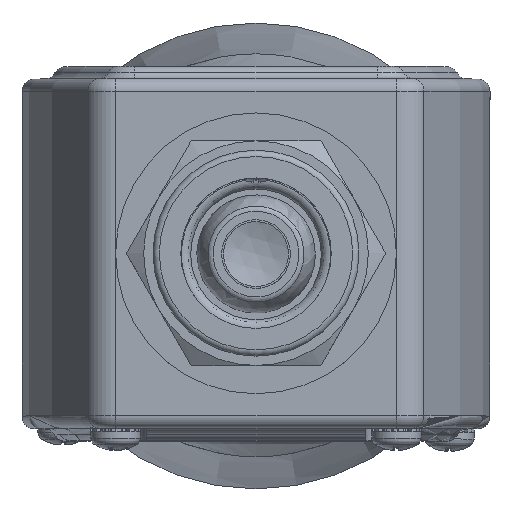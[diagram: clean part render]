
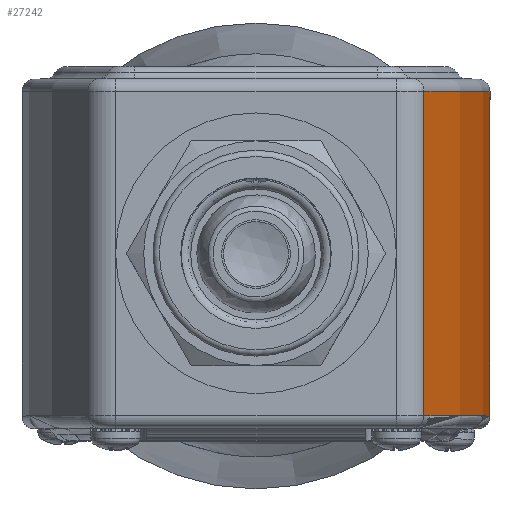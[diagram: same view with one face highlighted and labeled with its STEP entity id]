
A CAD part, top view. The second image highlights one B-rep face of the part: STEP entity #27242.
In plain terms, the highlighted cylindrical face has radius 90 mm (diameter 180 mm), a partial arc.
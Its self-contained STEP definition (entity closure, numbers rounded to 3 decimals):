
#2411=FACE_OUTER_BOUND('',#4044,.T.);
#4044=EDGE_LOOP('',(#22090,#22091,#22092,#22093));
#5369=CIRCLE('',#28909,90.);
#6079=CIRCLE('',#30252,90.);
#7830=LINE('',#48179,#9523);
#7831=LINE('',#48183,#9524);
#9523=VECTOR('',#37338,10.);
#9524=VECTOR('',#37343,10.);
#11005=VERTEX_POINT('',#43332);
#11006=VERTEX_POINT('',#43337);
#11933=VERTEX_POINT('',#48177);
#11934=VERTEX_POINT('',#48181);
#13894=EDGE_CURVE('',#11006,#11005,#5369,.T.);
#15451=EDGE_CURVE('',#11933,#11006,#7830,.T.);
#15452=EDGE_CURVE('',#11934,#11933,#6079,.T.);
#15453=EDGE_CURVE('',#11934,#11005,#7831,.T.);
#22090=ORIENTED_EDGE('',*,*,#15452,.F.);
#22091=ORIENTED_EDGE('',*,*,#15453,.T.);
#22092=ORIENTED_EDGE('',*,*,#13894,.F.);
#22093=ORIENTED_EDGE('',*,*,#15451,.F.);
#25302=CYLINDRICAL_SURFACE('',#30251,90.);
#27242=ADVANCED_FACE('',(#2411),#25302,.T.);
#28909=AXIS2_PLACEMENT_3D('',#43339,#34013,#34014);
#30251=AXIS2_PLACEMENT_3D('',#48180,#37339,#37340);
#30252=AXIS2_PLACEMENT_3D('',#48182,#37341,#37342);
#34013=DIRECTION('center_axis',(0.,-1.,0.));
#34014=DIRECTION('ref_axis',(0.97,0.,0.243));
#37338=DIRECTION('',(0.,-1.,0.));
#37339=DIRECTION('center_axis',(0.,-1.,0.));
#37340=DIRECTION('ref_axis',(1.,0.,0.));
#37341=DIRECTION('center_axis',(0.,1.,0.));
#37342=DIRECTION('ref_axis',(0.97,0.,0.243));
#37343=DIRECTION('',(0.,-1.,0.));
#43332=CARTESIAN_POINT('',(26.912,-26.,42.353));
#43337=CARTESIAN_POINT('',(37.5,-26.,0.));
#43339=CARTESIAN_POINT('Origin',(-52.5,-26.,0.));
#48177=CARTESIAN_POINT('',(37.5,26.,0.));
#48179=CARTESIAN_POINT('',(37.5,0.,0.));
#48180=CARTESIAN_POINT('Origin',(-52.5,0.,0.));
#48181=CARTESIAN_POINT('',(26.912,26.,42.353));
#48182=CARTESIAN_POINT('Origin',(-52.5,26.,0.));
#48183=CARTESIAN_POINT('',(26.912,0.,42.353));
